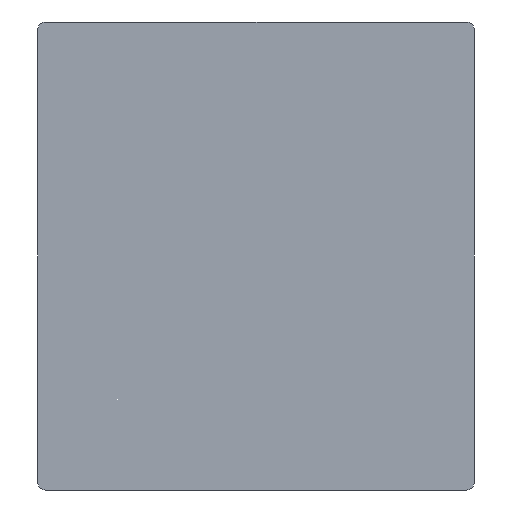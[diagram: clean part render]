
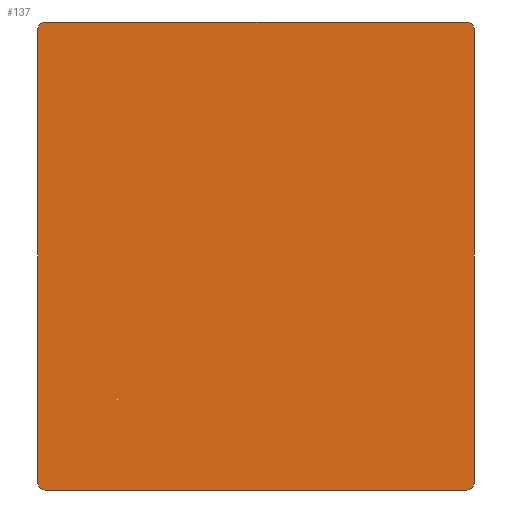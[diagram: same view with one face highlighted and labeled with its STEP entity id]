
A CAD part, front view. The second image highlights one B-rep face of the part: STEP entity #137.
In plain terms, the highlighted planar face has unit normal (0, -1, 0).
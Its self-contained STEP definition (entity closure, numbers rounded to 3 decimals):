
#21 = EDGE_CURVE('',#22,#24,#26,.T.);
#22 = VERTEX_POINT('',#23);
#23 = CARTESIAN_POINT('',(142.3,58.,1.));
#24 = VERTEX_POINT('',#25);
#25 = CARTESIAN_POINT('',(142.3,58.,58.4));
#26 = SURFACE_CURVE('',#27,(#31,#43),.PCURVE_S1.);
#27 = LINE('',#28,#29);
#28 = CARTESIAN_POINT('',(142.3,58.,0.));
#29 = VECTOR('',#30,1.);
#30 = DIRECTION('',(0.,0.,1.));
#31 = PCURVE('',#32,#37);
#32 = PLANE('',#33);
#33 = AXIS2_PLACEMENT_3D('',#34,#35,#36);
#34 = CARTESIAN_POINT('',(142.3,58.,0.));
#35 = DIRECTION('',(1.,0.,0.));
#36 = DIRECTION('',(0.,0.,1.));
#37 = DEFINITIONAL_REPRESENTATION('',(#38),#42);
#38 = LINE('',#39,#40);
#39 = CARTESIAN_POINT('',(0.,0.));
#40 = VECTOR('',#41,1.);
#41 = DIRECTION('',(1.,0.));
#42 = ( GEOMETRIC_REPRESENTATION_CONTEXT(2) 
PARAMETRIC_REPRESENTATION_CONTEXT() REPRESENTATION_CONTEXT('2D SPACE',''
  ) );
#43 = PCURVE('',#44,#49);
#44 = PLANE('',#45);
#45 = AXIS2_PLACEMENT_3D('',#46,#47,#48);
#46 = CARTESIAN_POINT('',(142.3,58.,0.));
#47 = DIRECTION('',(0.,1.,0.));
#48 = DIRECTION('',(0.,0.,1.));
#49 = DEFINITIONAL_REPRESENTATION('',(#50),#54);
#50 = LINE('',#51,#52);
#51 = CARTESIAN_POINT('',(0.,0.));
#52 = VECTOR('',#53,1.);
#53 = DIRECTION('',(1.,0.));
#54 = ( GEOMETRIC_REPRESENTATION_CONTEXT(2) 
PARAMETRIC_REPRESENTATION_CONTEXT() REPRESENTATION_CONTEXT('2D SPACE',''
  ) );
#72 = CYLINDRICAL_SURFACE('',#73,1.);
#73 = AXIS2_PLACEMENT_3D('',#74,#75,#76);
#74 = CARTESIAN_POINT('',(143.3,58.,1.));
#75 = DIRECTION('',(0.,1.,0.));
#76 = DIRECTION('',(-1.,0.,0.));
#126 = CYLINDRICAL_SURFACE('',#127,1.);
#127 = AXIS2_PLACEMENT_3D('',#128,#129,#130);
#128 = CARTESIAN_POINT('',(143.3,58.,58.4));
#129 = DIRECTION('',(0.,1.,0.));
#130 = DIRECTION('',(-1.,0.,0.));
#137 = ADVANCED_FACE('',(#138),#44,.F.);
#138 = FACE_BOUND('',#139,.F.);
#139 = EDGE_LOOP('',(#140,#170,#196,#197,#221,#249,#282,#310));
#140 = ORIENTED_EDGE('',*,*,#141,.F.);
#141 = EDGE_CURVE('',#142,#144,#146,.T.);
#142 = VERTEX_POINT('',#143);
#143 = CARTESIAN_POINT('',(143.3,58.,0.));
#144 = VERTEX_POINT('',#145);
#145 = CARTESIAN_POINT('',(196.7,58.,0.));
#146 = SURFACE_CURVE('',#147,(#151,#158),.PCURVE_S1.);
#147 = LINE('',#148,#149);
#148 = CARTESIAN_POINT('',(142.3,58.,0.));
#149 = VECTOR('',#150,1.);
#150 = DIRECTION('',(1.,0.,0.));
#151 = PCURVE('',#44,#152);
#152 = DEFINITIONAL_REPRESENTATION('',(#153),#157);
#153 = LINE('',#154,#155);
#154 = CARTESIAN_POINT('',(0.,0.));
#155 = VECTOR('',#156,1.);
#156 = DIRECTION('',(0.,1.));
#157 = ( GEOMETRIC_REPRESENTATION_CONTEXT(2) 
PARAMETRIC_REPRESENTATION_CONTEXT() REPRESENTATION_CONTEXT('2D SPACE',''
  ) );
#158 = PCURVE('',#159,#164);
#159 = PLANE('',#160);
#160 = AXIS2_PLACEMENT_3D('',#161,#162,#163);
#161 = CARTESIAN_POINT('',(142.3,58.,0.));
#162 = DIRECTION('',(0.,0.,1.));
#163 = DIRECTION('',(1.,0.,0.));
#164 = DEFINITIONAL_REPRESENTATION('',(#165),#169);
#165 = LINE('',#166,#167);
#166 = CARTESIAN_POINT('',(0.,0.));
#167 = VECTOR('',#168,1.);
#168 = DIRECTION('',(1.,0.));
#169 = ( GEOMETRIC_REPRESENTATION_CONTEXT(2) 
PARAMETRIC_REPRESENTATION_CONTEXT() REPRESENTATION_CONTEXT('2D SPACE',''
  ) );
#170 = ORIENTED_EDGE('',*,*,#171,.F.);
#171 = EDGE_CURVE('',#22,#142,#172,.T.);
#172 = SURFACE_CURVE('',#173,(#178,#189),.PCURVE_S1.);
#173 = CIRCLE('',#174,1.);
#174 = AXIS2_PLACEMENT_3D('',#175,#176,#177);
#175 = CARTESIAN_POINT('',(143.3,58.,1.));
#176 = DIRECTION('',(-0.,-1.,0.));
#177 = DIRECTION('',(0.,-0.,1.));
#178 = PCURVE('',#44,#179);
#179 = DEFINITIONAL_REPRESENTATION('',(#180),#188);
#180 = ( BOUNDED_CURVE() B_SPLINE_CURVE(2,(#181,#182,#183,#184,#185,#186
,#187),.UNSPECIFIED.,.T.,.F.) B_SPLINE_CURVE_WITH_KNOTS((1,2,2,2,2,1),(
    -2.094,0.,2.094,4.189,6.283,
8.378),.UNSPECIFIED.) CURVE() GEOMETRIC_REPRESENTATION_ITEM() 
RATIONAL_B_SPLINE_CURVE((1.,0.5,1.,0.5,1.,0.5,1.)) REPRESENTATION_ITEM(
  '') );
#181 = CARTESIAN_POINT('',(2.,1.));
#182 = CARTESIAN_POINT('',(2.,-0.732));
#183 = CARTESIAN_POINT('',(0.5,0.134));
#184 = CARTESIAN_POINT('',(-1.,1.));
#185 = CARTESIAN_POINT('',(0.5,1.866));
#186 = CARTESIAN_POINT('',(2.,2.732));
#187 = CARTESIAN_POINT('',(2.,1.));
#188 = ( GEOMETRIC_REPRESENTATION_CONTEXT(2) 
PARAMETRIC_REPRESENTATION_CONTEXT() REPRESENTATION_CONTEXT('2D SPACE',''
  ) );
#189 = PCURVE('',#72,#190);
#190 = DEFINITIONAL_REPRESENTATION('',(#191),#195);
#191 = LINE('',#192,#193);
#192 = CARTESIAN_POINT('',(1.571,-0.));
#193 = VECTOR('',#194,1.);
#194 = DIRECTION('',(-1.,0.));
#195 = ( GEOMETRIC_REPRESENTATION_CONTEXT(2) 
PARAMETRIC_REPRESENTATION_CONTEXT() REPRESENTATION_CONTEXT('2D SPACE',''
  ) );
#196 = ORIENTED_EDGE('',*,*,#21,.T.);
#197 = ORIENTED_EDGE('',*,*,#198,.T.);
#198 = EDGE_CURVE('',#24,#199,#201,.T.);
#199 = VERTEX_POINT('',#200);
#200 = CARTESIAN_POINT('',(143.3,58.,59.4));
#201 = SURFACE_CURVE('',#202,(#207,#214),.PCURVE_S1.);
#202 = CIRCLE('',#203,1.);
#203 = AXIS2_PLACEMENT_3D('',#204,#205,#206);
#204 = CARTESIAN_POINT('',(143.3,58.,58.4));
#205 = DIRECTION('',(0.,1.,0.));
#206 = DIRECTION('',(0.,-0.,1.));
#207 = PCURVE('',#44,#208);
#208 = DEFINITIONAL_REPRESENTATION('',(#209),#213);
#209 = CIRCLE('',#210,1.);
#210 = AXIS2_PLACEMENT_2D('',#211,#212);
#211 = CARTESIAN_POINT('',(58.4,1.));
#212 = DIRECTION('',(1.,0.));
#213 = ( GEOMETRIC_REPRESENTATION_CONTEXT(2) 
PARAMETRIC_REPRESENTATION_CONTEXT() REPRESENTATION_CONTEXT('2D SPACE',''
  ) );
#214 = PCURVE('',#126,#215);
#215 = DEFINITIONAL_REPRESENTATION('',(#216),#220);
#216 = LINE('',#217,#218);
#217 = CARTESIAN_POINT('',(-4.712,0.));
#218 = VECTOR('',#219,1.);
#219 = DIRECTION('',(1.,0.));
#220 = ( GEOMETRIC_REPRESENTATION_CONTEXT(2) 
PARAMETRIC_REPRESENTATION_CONTEXT() REPRESENTATION_CONTEXT('2D SPACE',''
  ) );
#221 = ORIENTED_EDGE('',*,*,#222,.T.);
#222 = EDGE_CURVE('',#199,#223,#225,.T.);
#223 = VERTEX_POINT('',#224);
#224 = CARTESIAN_POINT('',(196.7,58.,59.4));
#225 = SURFACE_CURVE('',#226,(#230,#237),.PCURVE_S1.);
#226 = LINE('',#227,#228);
#227 = CARTESIAN_POINT('',(142.3,58.,59.4));
#228 = VECTOR('',#229,1.);
#229 = DIRECTION('',(1.,0.,0.));
#230 = PCURVE('',#44,#231);
#231 = DEFINITIONAL_REPRESENTATION('',(#232),#236);
#232 = LINE('',#233,#234);
#233 = CARTESIAN_POINT('',(59.4,0.));
#234 = VECTOR('',#235,1.);
#235 = DIRECTION('',(0.,1.));
#236 = ( GEOMETRIC_REPRESENTATION_CONTEXT(2) 
PARAMETRIC_REPRESENTATION_CONTEXT() REPRESENTATION_CONTEXT('2D SPACE',''
  ) );
#237 = PCURVE('',#238,#243);
#238 = PLANE('',#239);
#239 = AXIS2_PLACEMENT_3D('',#240,#241,#242);
#240 = CARTESIAN_POINT('',(142.3,58.,59.4));
#241 = DIRECTION('',(0.,0.,1.));
#242 = DIRECTION('',(1.,0.,0.));
#243 = DEFINITIONAL_REPRESENTATION('',(#244),#248);
#244 = LINE('',#245,#246);
#245 = CARTESIAN_POINT('',(0.,0.));
#246 = VECTOR('',#247,1.);
#247 = DIRECTION('',(1.,0.));
#248 = ( GEOMETRIC_REPRESENTATION_CONTEXT(2) 
PARAMETRIC_REPRESENTATION_CONTEXT() REPRESENTATION_CONTEXT('2D SPACE',''
  ) );
#249 = ORIENTED_EDGE('',*,*,#250,.F.);
#250 = EDGE_CURVE('',#251,#223,#253,.T.);
#251 = VERTEX_POINT('',#252);
#252 = CARTESIAN_POINT('',(197.7,58.,58.4));
#253 = SURFACE_CURVE('',#254,(#259,#270),.PCURVE_S1.);
#254 = CIRCLE('',#255,1.);
#255 = AXIS2_PLACEMENT_3D('',#256,#257,#258);
#256 = CARTESIAN_POINT('',(196.7,58.,58.4));
#257 = DIRECTION('',(-0.,-1.,0.));
#258 = DIRECTION('',(0.,-0.,1.));
#259 = PCURVE('',#44,#260);
#260 = DEFINITIONAL_REPRESENTATION('',(#261),#269);
#261 = ( BOUNDED_CURVE() B_SPLINE_CURVE(2,(#262,#263,#264,#265,#266,#267
,#268),.UNSPECIFIED.,.T.,.F.) B_SPLINE_CURVE_WITH_KNOTS((1,2,2,2,2,1),(
    -2.094,0.,2.094,4.189,6.283,
8.378),.UNSPECIFIED.) CURVE() GEOMETRIC_REPRESENTATION_ITEM() 
RATIONAL_B_SPLINE_CURVE((1.,0.5,1.,0.5,1.,0.5,1.)) REPRESENTATION_ITEM(
  '') );
#262 = CARTESIAN_POINT('',(59.4,54.4));
#263 = CARTESIAN_POINT('',(59.4,52.668));
#264 = CARTESIAN_POINT('',(57.9,53.534));
#265 = CARTESIAN_POINT('',(56.4,54.4));
#266 = CARTESIAN_POINT('',(57.9,55.266));
#267 = CARTESIAN_POINT('',(59.4,56.132));
#268 = CARTESIAN_POINT('',(59.4,54.4));
#269 = ( GEOMETRIC_REPRESENTATION_CONTEXT(2) 
PARAMETRIC_REPRESENTATION_CONTEXT() REPRESENTATION_CONTEXT('2D SPACE',''
  ) );
#270 = PCURVE('',#271,#276);
#271 = CYLINDRICAL_SURFACE('',#272,1.);
#272 = AXIS2_PLACEMENT_3D('',#273,#274,#275);
#273 = CARTESIAN_POINT('',(196.7,58.,58.4));
#274 = DIRECTION('',(0.,1.,0.));
#275 = DIRECTION('',(1.,0.,-0.));
#276 = DEFINITIONAL_REPRESENTATION('',(#277),#281);
#277 = LINE('',#278,#279);
#278 = CARTESIAN_POINT('',(4.712,-0.));
#279 = VECTOR('',#280,1.);
#280 = DIRECTION('',(-1.,0.));
#281 = ( GEOMETRIC_REPRESENTATION_CONTEXT(2) 
PARAMETRIC_REPRESENTATION_CONTEXT() REPRESENTATION_CONTEXT('2D SPACE',''
  ) );
#282 = ORIENTED_EDGE('',*,*,#283,.F.);
#283 = EDGE_CURVE('',#284,#251,#286,.T.);
#284 = VERTEX_POINT('',#285);
#285 = CARTESIAN_POINT('',(197.7,58.,1.));
#286 = SURFACE_CURVE('',#287,(#291,#298),.PCURVE_S1.);
#287 = LINE('',#288,#289);
#288 = CARTESIAN_POINT('',(197.7,58.,0.));
#289 = VECTOR('',#290,1.);
#290 = DIRECTION('',(0.,0.,1.));
#291 = PCURVE('',#44,#292);
#292 = DEFINITIONAL_REPRESENTATION('',(#293),#297);
#293 = LINE('',#294,#295);
#294 = CARTESIAN_POINT('',(0.,55.4));
#295 = VECTOR('',#296,1.);
#296 = DIRECTION('',(1.,0.));
#297 = ( GEOMETRIC_REPRESENTATION_CONTEXT(2) 
PARAMETRIC_REPRESENTATION_CONTEXT() REPRESENTATION_CONTEXT('2D SPACE',''
  ) );
#298 = PCURVE('',#299,#304);
#299 = PLANE('',#300);
#300 = AXIS2_PLACEMENT_3D('',#301,#302,#303);
#301 = CARTESIAN_POINT('',(197.7,58.,0.));
#302 = DIRECTION('',(1.,0.,0.));
#303 = DIRECTION('',(0.,0.,1.));
#304 = DEFINITIONAL_REPRESENTATION('',(#305),#309);
#305 = LINE('',#306,#307);
#306 = CARTESIAN_POINT('',(0.,0.));
#307 = VECTOR('',#308,1.);
#308 = DIRECTION('',(1.,0.));
#309 = ( GEOMETRIC_REPRESENTATION_CONTEXT(2) 
PARAMETRIC_REPRESENTATION_CONTEXT() REPRESENTATION_CONTEXT('2D SPACE',''
  ) );
#310 = ORIENTED_EDGE('',*,*,#311,.T.);
#311 = EDGE_CURVE('',#284,#144,#312,.T.);
#312 = SURFACE_CURVE('',#313,(#318,#325),.PCURVE_S1.);
#313 = CIRCLE('',#314,1.);
#314 = AXIS2_PLACEMENT_3D('',#315,#316,#317);
#315 = CARTESIAN_POINT('',(196.7,58.,1.));
#316 = DIRECTION('',(0.,1.,0.));
#317 = DIRECTION('',(0.,-0.,1.));
#318 = PCURVE('',#44,#319);
#319 = DEFINITIONAL_REPRESENTATION('',(#320),#324);
#320 = CIRCLE('',#321,1.);
#321 = AXIS2_PLACEMENT_2D('',#322,#323);
#322 = CARTESIAN_POINT('',(1.,54.4));
#323 = DIRECTION('',(1.,0.));
#324 = ( GEOMETRIC_REPRESENTATION_CONTEXT(2) 
PARAMETRIC_REPRESENTATION_CONTEXT() REPRESENTATION_CONTEXT('2D SPACE',''
  ) );
#325 = PCURVE('',#326,#331);
#326 = CYLINDRICAL_SURFACE('',#327,1.);
#327 = AXIS2_PLACEMENT_3D('',#328,#329,#330);
#328 = CARTESIAN_POINT('',(196.7,58.,1.));
#329 = DIRECTION('',(0.,1.,0.));
#330 = DIRECTION('',(1.,0.,-0.));
#331 = DEFINITIONAL_REPRESENTATION('',(#332),#336);
#332 = LINE('',#333,#334);
#333 = CARTESIAN_POINT('',(-1.571,0.));
#334 = VECTOR('',#335,1.);
#335 = DIRECTION('',(1.,0.));
#336 = ( GEOMETRIC_REPRESENTATION_CONTEXT(2) 
PARAMETRIC_REPRESENTATION_CONTEXT() REPRESENTATION_CONTEXT('2D SPACE',''
  ) );
